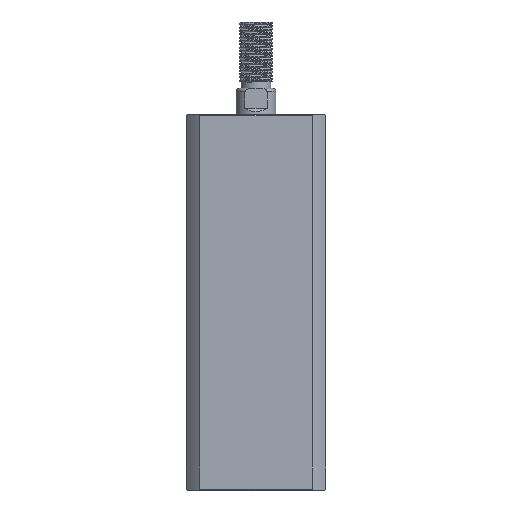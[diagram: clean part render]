
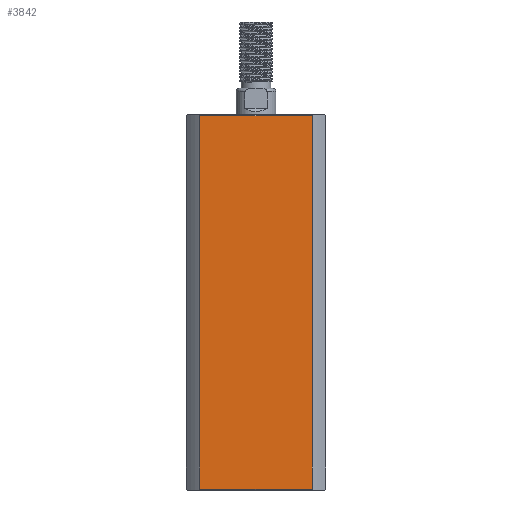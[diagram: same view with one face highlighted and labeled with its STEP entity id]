
A CAD part, left-side view. The second image highlights one B-rep face of the part: STEP entity #3842.
In plain terms, the highlighted planar face has unit normal (-1, 0, 0).
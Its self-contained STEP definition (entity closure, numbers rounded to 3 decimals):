
#696 = DIRECTION ( 'NONE',  ( 0., 0., -1. ) ) ;
#1010 = CARTESIAN_POINT ( 'NONE',  ( -21., 16.971, 0.3 ) ) ;
#1674 = VERTEX_POINT ( 'NONE', #2002 ) ;
#1744 = LINE ( 'NONE', #12290, #7513 ) ;
#2002 = CARTESIAN_POINT ( 'NONE',  ( -21., 16.971, 112.7 ) ) ;
#2670 = LINE ( 'NONE', #9356, #8473 ) ;
#2769 = EDGE_LOOP ( 'NONE', ( #12696, #13689, #12629, #14515 ) ) ;
#3713 = DIRECTION ( 'NONE',  ( 0., -1., 0. ) ) ;
#3842 = ADVANCED_FACE ( 'NONE', ( #7159 ), #10010, .F. ) ;
#4238 = CARTESIAN_POINT ( 'NONE',  ( -21., 21., 113. ) ) ;
#4458 = LINE ( 'NONE', #8786, #7518 ) ;
#4872 = CARTESIAN_POINT ( 'NONE',  ( -21., 21., 0.3 ) ) ;
#4881 = EDGE_CURVE ( 'NONE', #13529, #6813, #4458, .T. ) ;
#6549 = DIRECTION ( 'NONE',  ( 1., 0., 0. ) ) ;
#6813 = VERTEX_POINT ( 'NONE', #11514 ) ;
#7001 = EDGE_CURVE ( 'NONE', #11791, #6813, #8406, .T. ) ;
#7159 = FACE_OUTER_BOUND ( 'NONE', #2769, .T. ) ;
#7467 = AXIS2_PLACEMENT_3D ( 'NONE', #4238, #6549, #14639 ) ;
#7513 = VECTOR ( 'NONE', #7621, 1000. ) ;
#7518 = VECTOR ( 'NONE', #696, 1000. ) ;
#7621 = DIRECTION ( 'NONE',  ( 0., 0., 1. ) ) ;
#8406 = LINE ( 'NONE', #4872, #9206 ) ;
#8473 = VECTOR ( 'NONE', #10504, 1000. ) ;
#8697 = EDGE_CURVE ( 'NONE', #13529, #1674, #2670, .T. ) ;
#8786 = CARTESIAN_POINT ( 'NONE',  ( -21., -16.971, -142. ) ) ;
#9206 = VECTOR ( 'NONE', #3713, 1000. ) ;
#9356 = CARTESIAN_POINT ( 'NONE',  ( -21., 21., 112.7 ) ) ;
#10010 = PLANE ( 'NONE',  #7467 ) ;
#10504 = DIRECTION ( 'NONE',  ( 0., 1., 0. ) ) ;
#10690 = EDGE_CURVE ( 'NONE', #11791, #1674, #1744, .T. ) ;
#11372 = CARTESIAN_POINT ( 'NONE',  ( -21., -16.971, 112.7 ) ) ;
#11514 = CARTESIAN_POINT ( 'NONE',  ( -21., -16.971, 0.3 ) ) ;
#11791 = VERTEX_POINT ( 'NONE', #1010 ) ;
#12290 = CARTESIAN_POINT ( 'NONE',  ( -21., 16.971, -142. ) ) ;
#12629 = ORIENTED_EDGE ( 'NONE', *, *, #4881, .F. ) ;
#12696 = ORIENTED_EDGE ( 'NONE', *, *, #10690, .F. ) ;
#13529 = VERTEX_POINT ( 'NONE', #11372 ) ;
#13689 = ORIENTED_EDGE ( 'NONE', *, *, #7001, .T. ) ;
#14515 = ORIENTED_EDGE ( 'NONE', *, *, #8697, .T. ) ;
#14639 = DIRECTION ( 'NONE',  ( 0., 1., 0. ) ) ;
